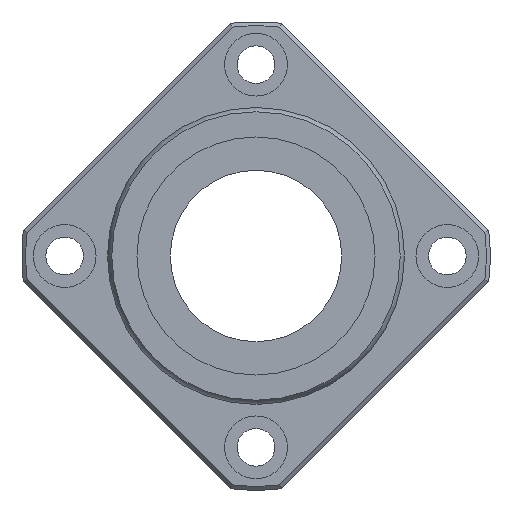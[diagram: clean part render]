
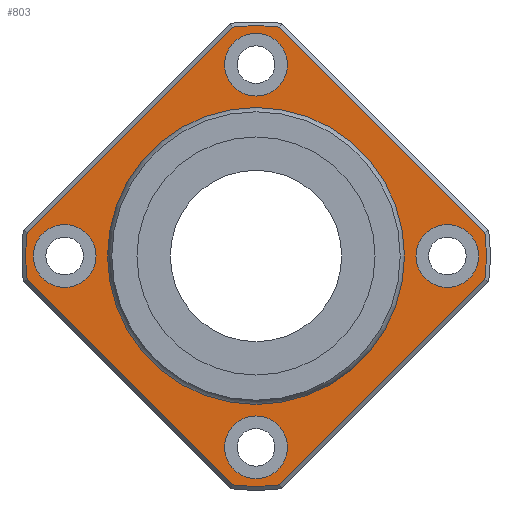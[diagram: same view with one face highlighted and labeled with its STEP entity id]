
A CAD part, left-side view. The second image highlights one B-rep face of the part: STEP entity #803.
In plain terms, the highlighted planar face has unit normal (-1, 0, 0).
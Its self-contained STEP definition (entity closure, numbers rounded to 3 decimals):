
#498=CARTESIAN_POINT('',(91.5,-4.183,-40.082));
#499=VERTEX_POINT('',#498);
#507=CARTESIAN_POINT('',(91.5,4.183,-40.082));
#508=VERTEX_POINT('',#507);
#509=CARTESIAN_POINT('',(91.5,0.0,0.0));
#510=DIRECTION('',(1.0,0.0,0.0));
#511=DIRECTION('',(0.0,0.0,-1.0));
#512=AXIS2_PLACEMENT_3D('',#509,#510,#511);
#513=CIRCLE('',#512,40.3);
#514=EDGE_CURVE('',#499,#508,#513,.T.);
#540=CARTESIAN_POINT('',(91.5,40.082,-4.183));
#541=VERTEX_POINT('',#540);
#542=CARTESIAN_POINT('',(91.5,4.183,-40.082));
#543=DIRECTION('',(0.0,0.707,0.707));
#544=VECTOR('',#543,50.77);
#545=LINE('',#542,#544);
#546=EDGE_CURVE('',#508,#541,#545,.T.);
#573=CARTESIAN_POINT('',(91.5,40.082,4.183));
#574=VERTEX_POINT('',#573);
#575=CARTESIAN_POINT('',(91.5,0.0,0.0));
#576=DIRECTION('',(1.0,0.0,0.0));
#577=DIRECTION('',(0.0,0.0,1.0));
#578=AXIS2_PLACEMENT_3D('',#575,#576,#577);
#579=CIRCLE('',#578,40.3);
#580=EDGE_CURVE('',#541,#574,#579,.T.);
#604=CARTESIAN_POINT('',(91.5,4.183,40.082));
#605=VERTEX_POINT('',#604);
#606=CARTESIAN_POINT('',(91.5,40.082,4.183));
#607=DIRECTION('',(0.0,-0.707,0.707));
#608=VECTOR('',#607,50.77);
#609=LINE('',#606,#608);
#610=EDGE_CURVE('',#574,#605,#609,.T.);
#629=CARTESIAN_POINT('',(91.5,-4.183,40.082));
#630=VERTEX_POINT('',#629);
#631=CARTESIAN_POINT('',(91.5,0.0,0.0));
#632=DIRECTION('',(1.0,0.0,0.0));
#633=DIRECTION('',(0.0,0.0,1.0));
#634=AXIS2_PLACEMENT_3D('',#631,#632,#633);
#635=CIRCLE('',#634,40.3);
#636=EDGE_CURVE('',#605,#630,#635,.T.);
#655=CARTESIAN_POINT('',(91.5,-40.082,4.183));
#656=VERTEX_POINT('',#655);
#657=CARTESIAN_POINT('',(91.5,-4.183,40.082));
#658=DIRECTION('',(0.0,-0.707,-0.707));
#659=VECTOR('',#658,50.77);
#660=LINE('',#657,#659);
#661=EDGE_CURVE('',#630,#656,#660,.T.);
#680=CARTESIAN_POINT('',(91.5,-40.082,-4.183));
#681=VERTEX_POINT('',#680);
#682=CARTESIAN_POINT('',(91.5,0.0,0.0));
#683=DIRECTION('',(1.0,0.0,0.0));
#684=DIRECTION('',(0.0,0.0,1.0));
#685=AXIS2_PLACEMENT_3D('',#682,#683,#684);
#686=CIRCLE('',#685,40.3);
#687=EDGE_CURVE('',#656,#681,#686,.T.);
#706=CARTESIAN_POINT('',(91.5,-40.082,-4.183));
#707=DIRECTION('',(0.0,0.707,-0.707));
#708=VECTOR('',#707,50.77);
#709=LINE('',#706,#708);
#710=EDGE_CURVE('',#681,#499,#709,.T.);
#733=CARTESIAN_POINT('',(91.5,0.0,33.357));
#734=DIRECTION('',(-1.0,0.0,0.0));
#735=DIRECTION('',(0.0,0.0,1.0));
#736=AXIS2_PLACEMENT_3D('',#733,#734,#735);
#737=PLANE('',#736);
#738=ORIENTED_EDGE('',*,*,#514,.F.);
#739=ORIENTED_EDGE('',*,*,#710,.F.);
#740=ORIENTED_EDGE('',*,*,#687,.F.);
#741=ORIENTED_EDGE('',*,*,#661,.F.);
#742=ORIENTED_EDGE('',*,*,#636,.F.);
#743=ORIENTED_EDGE('',*,*,#610,.F.);
#744=ORIENTED_EDGE('',*,*,#580,.F.);
#745=ORIENTED_EDGE('',*,*,#546,.F.);
#746=EDGE_LOOP('',(#738,#739,#740,#741,#742,#743,#744,#745));
#747=FACE_OUTER_BOUND('',#746,.T.);
#748=CARTESIAN_POINT('',(91.5,0.0,25.714));
#749=VERTEX_POINT('',#748);
#750=CARTESIAN_POINT('',(91.5,0.0,0.0));
#751=DIRECTION('',(-1.0,0.0,0.0));
#752=DIRECTION('',(0.0,0.0,1.0));
#753=AXIS2_PLACEMENT_3D('',#750,#751,#752);
#754=CIRCLE('',#753,25.714);
#755=EDGE_CURVE('',#749,#749,#754,.T.);
#756=ORIENTED_EDGE('',*,*,#755,.F.);
#757=EDGE_LOOP('',(#756));
#758=FACE_BOUND('',#757,.T.);
#759=CARTESIAN_POINT('',(91.5,-28.,0.));
#760=VERTEX_POINT('',#759);
#761=CARTESIAN_POINT('',(91.5,-33.5,0.));
#762=DIRECTION('',(1.0,0.0,0.0));
#763=DIRECTION('',(0.0,1.0,0.0));
#764=AXIS2_PLACEMENT_3D('',#761,#762,#763);
#765=CIRCLE('',#764,5.5);
#766=EDGE_CURVE('',#760,#760,#765,.T.);
#767=ORIENTED_EDGE('',*,*,#766,.T.);
#768=EDGE_LOOP('',(#767));
#769=FACE_BOUND('',#768,.T.);
#770=CARTESIAN_POINT('',(91.5,39.0,0.));
#771=VERTEX_POINT('',#770);
#772=CARTESIAN_POINT('',(91.5,33.5,0.));
#773=DIRECTION('',(1.0,0.0,0.0));
#774=DIRECTION('',(0.0,1.0,0.0));
#775=AXIS2_PLACEMENT_3D('',#772,#773,#774);
#776=CIRCLE('',#775,5.5);
#777=EDGE_CURVE('',#771,#771,#776,.T.);
#778=ORIENTED_EDGE('',*,*,#777,.T.);
#779=EDGE_LOOP('',(#778));
#780=FACE_BOUND('',#779,.T.);
#781=CARTESIAN_POINT('',(91.5,5.5,33.5));
#782=VERTEX_POINT('',#781);
#783=CARTESIAN_POINT('',(91.5,0.,33.5));
#784=DIRECTION('',(1.0,0.0,0.0));
#785=DIRECTION('',(0.0,1.0,0.0));
#786=AXIS2_PLACEMENT_3D('',#783,#784,#785);
#787=CIRCLE('',#786,5.5);
#788=EDGE_CURVE('',#782,#782,#787,.T.);
#789=ORIENTED_EDGE('',*,*,#788,.T.);
#790=EDGE_LOOP('',(#789));
#791=FACE_BOUND('',#790,.T.);
#792=CARTESIAN_POINT('',(91.5,5.5,-33.5));
#793=VERTEX_POINT('',#792);
#794=CARTESIAN_POINT('',(91.5,0.,-33.5));
#795=DIRECTION('',(1.0,0.0,0.0));
#796=DIRECTION('',(0.0,1.0,0.0));
#797=AXIS2_PLACEMENT_3D('',#794,#795,#796);
#798=CIRCLE('',#797,5.5);
#799=EDGE_CURVE('',#793,#793,#798,.T.);
#800=ORIENTED_EDGE('',*,*,#799,.T.);
#801=EDGE_LOOP('',(#800));
#802=FACE_BOUND('',#801,.T.);
#803=ADVANCED_FACE('',(#747,#758,#769,#780,#791,#802),#737,.T.);
